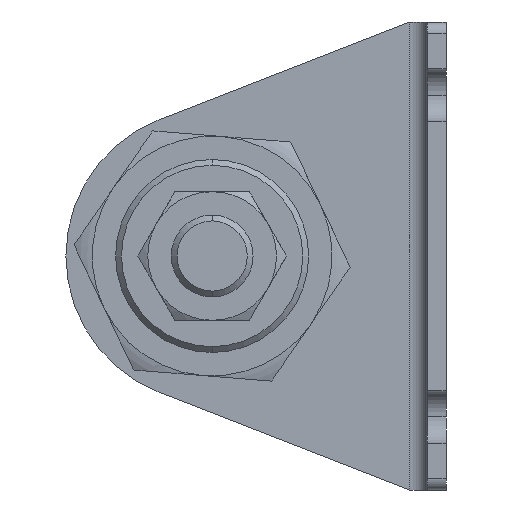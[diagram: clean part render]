
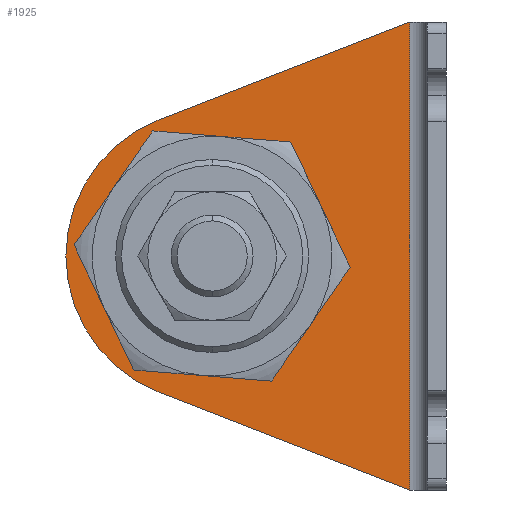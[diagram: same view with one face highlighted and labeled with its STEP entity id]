
A CAD part, left-side view. The second image highlights one B-rep face of the part: STEP entity #1925.
In plain terms, the highlighted planar face has unit normal (-1, 0, 0) as drawn and (1, 0, 0) by its records, which use the part's own axes.
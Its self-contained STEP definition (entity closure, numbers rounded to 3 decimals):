
#3 = AXIS2_PLACEMENT_3D ( 'NONE', #3046, #1699, #2259 ) ;
#45 = DIRECTION ( 'NONE',  ( 0., 1., 0. ) ) ;
#317 = EDGE_CURVE ( 'NONE', #2850, #1758, #2315, .T. ) ;
#353 = ORIENTED_EDGE ( 'NONE', *, *, #2771, .T. ) ;
#609 = CARTESIAN_POINT ( 'NONE',  ( 3.2, 23.5, -40. ) ) ;
#728 = FACE_BOUND ( 'NONE', #3040, .T. ) ;
#838 = DIRECTION ( 'NONE',  ( 0., 1., 0. ) ) ;
#948 = PLANE ( 'NONE',  #2046 ) ;
#964 = VECTOR ( 'NONE', #2339, 1000. ) ;
#1058 = AXIS2_PLACEMENT_3D ( 'NONE', #1570, #4107, #2145 ) ;
#1102 = DIRECTION ( 'NONE',  ( 0., 0.932, -0.363 ) ) ;
#1122 = EDGE_CURVE ( 'NONE', #2447, #3492, #2326, .T. ) ;
#1320 = EDGE_CURVE ( 'NONE', #1733, #3163, #3805, .T. ) ;
#1331 = CARTESIAN_POINT ( 'NONE',  ( 3.2, 6.2, -80. ) ) ;
#1358 = VECTOR ( 'NONE', #3730, 1000. ) ;
#1570 = CARTESIAN_POINT ( 'NONE',  ( 3.2, 40., -40. ) ) ;
#1621 = CIRCLE ( 'NONE', #4039, 25. ) ;
#1674 = CIRCLE ( 'NONE', #1058, 25. ) ;
#1699 = DIRECTION ( 'NONE',  ( 1., 0., 0. ) ) ;
#1711 = DIRECTION ( 'NONE',  ( 0., 1., 0. ) ) ;
#1733 = VERTEX_POINT ( 'NONE', #1331 ) ;
#1745 = AXIS2_PLACEMENT_3D ( 'NONE', #4294, #3792, #838 ) ;
#1758 = VERTEX_POINT ( 'NONE', #3992 ) ;
#1816 = CARTESIAN_POINT ( 'NONE',  ( 3.2, 49.076, -63.294 ) ) ;
#1855 = VERTEX_POINT ( 'NONE', #4060 ) ;
#1925 = ADVANCED_FACE ( 'NONE', ( #728, #2951 ), #948, .T. ) ;
#2046 = AXIS2_PLACEMENT_3D ( 'NONE', #4056, #3314, #45 ) ;
#2145 = DIRECTION ( 'NONE',  ( 0., 1., 0. ) ) ;
#2251 = ORIENTED_EDGE ( 'NONE', *, *, #1122, .F. ) ;
#2259 = DIRECTION ( 'NONE',  ( 0., 1., 0. ) ) ;
#2312 = EDGE_CURVE ( 'NONE', #2850, #1733, #3213, .T. ) ;
#2315 = LINE ( 'NONE', #3029, #4469 ) ;
#2326 = CIRCLE ( 'NONE', #1745, 16.5 ) ;
#2339 = DIRECTION ( 'NONE',  ( 0., 0., -1. ) ) ;
#2358 = EDGE_CURVE ( 'NONE', #3163, #1855, #1621, .T. ) ;
#2409 = ORIENTED_EDGE ( 'NONE', *, *, #3764, .F. ) ;
#2447 = VERTEX_POINT ( 'NONE', #609 ) ;
#2626 = CIRCLE ( 'NONE', #3, 16.5 ) ;
#2711 = CARTESIAN_POINT ( 'NONE',  ( 3.2, 40., -40. ) ) ;
#2771 = EDGE_CURVE ( 'NONE', #1855, #1758, #1674, .T. ) ;
#2850 = VERTEX_POINT ( 'NONE', #3500 ) ;
#2928 = ORIENTED_EDGE ( 'NONE', *, *, #2312, .T. ) ;
#2951 = FACE_OUTER_BOUND ( 'NONE', #4064, .T. ) ;
#3029 = CARTESIAN_POINT ( 'NONE',  ( 3.2, 30.657, -9.529 ) ) ;
#3040 = EDGE_LOOP ( 'NONE', ( #2409, #2251 ) ) ;
#3046 = CARTESIAN_POINT ( 'NONE',  ( 3.2, 40., -40. ) ) ;
#3163 = VERTEX_POINT ( 'NONE', #1816 ) ;
#3213 = LINE ( 'NONE', #3352, #964 ) ;
#3314 = DIRECTION ( 'NONE',  ( 1., 0., 0. ) ) ;
#3328 = ORIENTED_EDGE ( 'NONE', *, *, #1320, .T. ) ;
#3352 = CARTESIAN_POINT ( 'NONE',  ( 3.2, 6.2, -80. ) ) ;
#3488 = DIRECTION ( 'NONE',  ( 1., 0., 0. ) ) ;
#3492 = VERTEX_POINT ( 'NONE', #4218 ) ;
#3500 = CARTESIAN_POINT ( 'NONE',  ( 3.2, 6.2, 0. ) ) ;
#3583 = CARTESIAN_POINT ( 'NONE',  ( 3.2, 3.595, -81.015 ) ) ;
#3730 = DIRECTION ( 'NONE',  ( 0., 0.932, 0.363 ) ) ;
#3764 = EDGE_CURVE ( 'NONE', #3492, #2447, #2626, .T. ) ;
#3792 = DIRECTION ( 'NONE',  ( 1., 0., 0. ) ) ;
#3805 = LINE ( 'NONE', #3583, #1358 ) ;
#3829 = ORIENTED_EDGE ( 'NONE', *, *, #317, .F. ) ;
#3990 = ORIENTED_EDGE ( 'NONE', *, *, #2358, .T. ) ;
#3992 = CARTESIAN_POINT ( 'NONE',  ( 3.2, 49.076, -16.706 ) ) ;
#4039 = AXIS2_PLACEMENT_3D ( 'NONE', #2711, #3488, #1711 ) ;
#4056 = CARTESIAN_POINT ( 'NONE',  ( 3.2, 3.2, -80. ) ) ;
#4060 = CARTESIAN_POINT ( 'NONE',  ( 3.2, 65., -40. ) ) ;
#4064 = EDGE_LOOP ( 'NONE', ( #3328, #3990, #353, #3829, #2928 ) ) ;
#4107 = DIRECTION ( 'NONE',  ( 1., 0., 0. ) ) ;
#4218 = CARTESIAN_POINT ( 'NONE',  ( 3.2, 56.5, -40. ) ) ;
#4294 = CARTESIAN_POINT ( 'NONE',  ( 3.2, 40., -40. ) ) ;
#4469 = VECTOR ( 'NONE', #1102, 1000. ) ;
